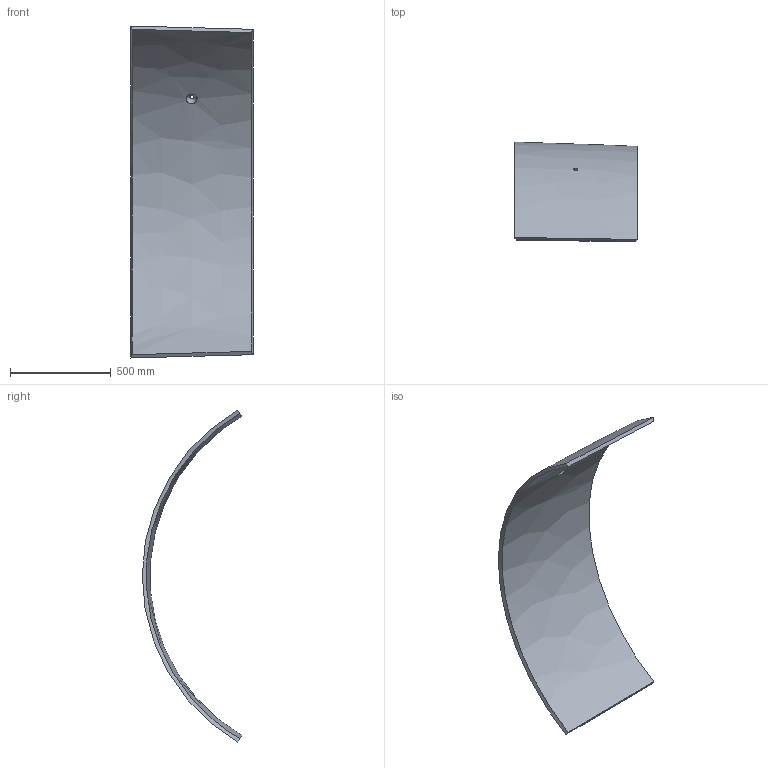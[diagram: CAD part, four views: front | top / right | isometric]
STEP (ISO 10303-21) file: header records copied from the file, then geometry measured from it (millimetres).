
FILE_DESCRIPTION (( 'STEP AP214' ), '1' );
FILE_NAME ('P14.STEP', '2025-01-09T19:43:26', ( '' ), ( '' ), 'SwSTEP 2.0', 'SolidWorks 2024', '' );
FILE_SCHEMA (( 'AUTOMOTIVE_DESIGN' ));
Length unit declared in the file: inch
Products named in the file (1): P14
Bounding box: 606.42 x 493.78 x 1648.14 mm (x, y, z)
Volume: 23226630.8 mm3; surface area: 2435091.7 mm2
Topology: 1 solids, 1 shells, 8 faces, 18 edges, 12 vertices
Faces by surface type: bspline 7, cylinder 1
Full cylindrical faces by diameter (mm): 19.447 x1
Entity records: 2543 total; most frequent: CARTESIAN_POINT 2395, ORIENTED_EDGE 30, EDGE_CURVE 15, B_SPLINE_CURVE_WITH_KNOTS 15, EDGE_LOOP 12, VERTEX_POINT 11, FACE_OUTER_BOUND 10, ADVANCED_FACE 8
